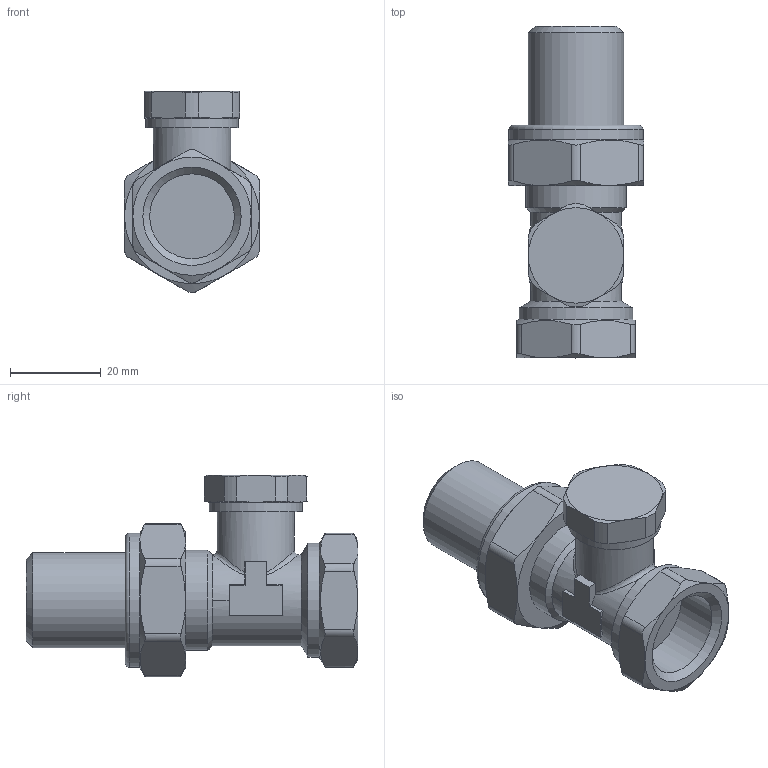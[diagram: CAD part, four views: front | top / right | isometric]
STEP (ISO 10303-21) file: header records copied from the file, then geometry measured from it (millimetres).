
FILE_DESCRIPTION(('STEP AP203'), '1');
FILE_NAME('VT.020.N.04', '2024-09-13T10:36:21', ('User'), ('Vesta'), 'C3D Converter', 'C3D Toolkit', '');
FILE_SCHEMA(('CONFIG_CONTROL_DESIGN'));
Length unit declared in the file: millimetre
Bounding box: 29.7 x 73 x 44.34 mm (x, y, z)
Volume: 34697.8 mm3; surface area: 9247.2 mm2
Topology: 1 solids, 1 shells, 97 faces, 246 edges, 155 vertices
Faces by surface type: plane 43, cylinder 27, cone 24, bspline 2, torus 1
Full cylindrical faces by diameter (mm): 17 x1, 18.632 x1, 20 x1, 20.5 x1, 20.955 x1, 22 x1, 25 x1, 29.5 x1
Entity records: 5535 total; most frequent: CARTESIAN_POINT 3475, ORIENTED_EDGE 446, DIRECTION 358, EDGE_CURVE 223, VERTEX_POINT 152, AXIS2_PLACEMENT_3D 140, EDGE_LOOP 114, ADVANCED_FACE 94
